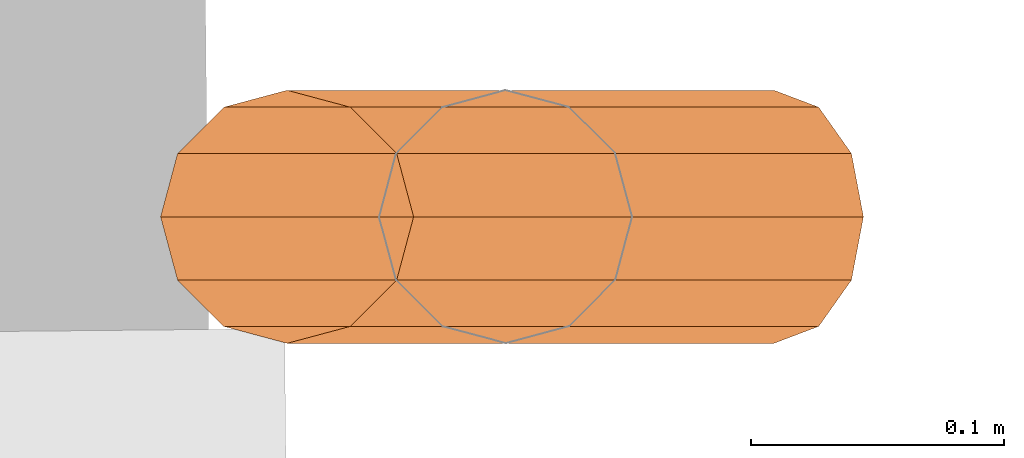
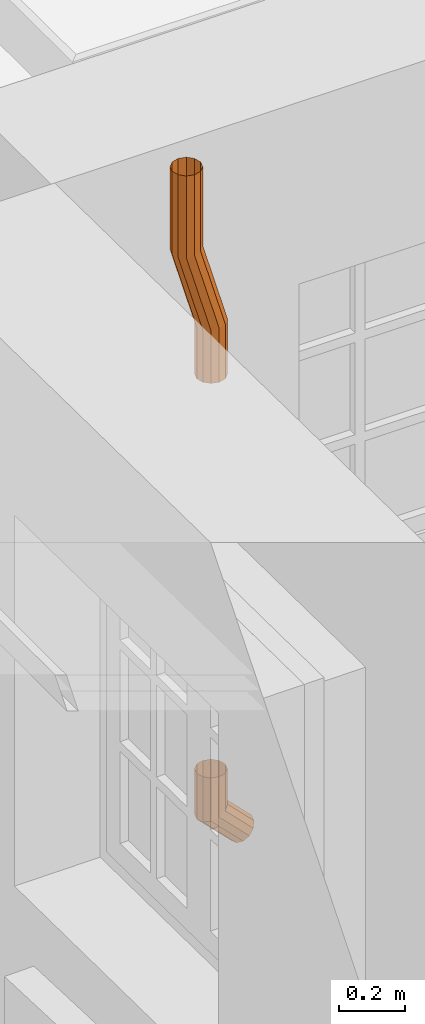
# One storey, part 192 of 196: 2 proxies.
"""IFC2X3 building model written with IfcOpenShell, lengths in metres."""

import ifcopenshell
import ifcopenshell.guid

model = None  # the IFC model being written
_history = None  # IfcOwnerHistory: only IFC2X3 demands one
_inside = {}  # id of a spatial element -> (the spatial element, [elements in it])
_under = {}  # id of a project, library or spatial element -> (it, [spatial elements below it])
_declared = {}  # id of a project -> (the project, [libraries it declares])
_typed = {}  # id of a type object -> (the type object, [elements of that type])
_made_of = {}  # id of a material, layer set ... -> (it, [elements and type objects made of it])


def new_model(schema):
    """Start an empty IFC model of exactly this schema.

    Asked for "IFC4X3", IfcOpenShell would pick the latest addendum, in which some entities
    have other attributes; the version numbers below select the first issue.
    IFC2X3 requires an IfcOwnerHistory on every rooted entity: one is made here for all.
    """
    global model, _history
    if schema == "IFC4X3":
        model = ifcopenshell.file(schema_version=(4, 3, 0, 0))
    else:
        model = ifcopenshell.file(schema=schema)
    _inside.clear()
    _under.clear()
    _declared.clear()
    _typed.clear()
    _made_of.clear()
    _history = None
    if model.schema == "IFC2X3":
        org = make("IfcOrganization", Name="unknown")
        user = make(
            "IfcPersonAndOrganization",
            ThePerson=make("IfcPerson", FamilyName="unknown"),
            TheOrganization=org,
        )
        app = make(
            "IfcApplication",
            ApplicationDeveloper=org,
            Version="unknown",
            ApplicationFullName="unknown",
            ApplicationIdentifier="unknown",
        )
        _history = make(
            "IfcOwnerHistory",
            OwningUser=user,
            OwningApplication=app,
            ChangeAction="ADDED",
            CreationDate=0,
        )
    return model


def make(cls, **values):
    """One entity of the class cls with the attributes given. An attribute that is None is left unset."""
    return model.create_entity(
        cls, **{name: value for name, value in values.items() if value is not None}
    )


def entity(cls, *values):
    """Any entity or typed value of the class cls, its attributes in the order of the schema. None: left unset."""
    e = model.create_entity(cls)
    for i, value in enumerate(values):
        if value is not None:
            e[i] = value
    return e


def rooted(cls, **values):
    """An entity with a GlobalId (a new one), such as an element, a storey or a relation."""
    return make(cls, GlobalId=ifcopenshell.guid.new(), OwnerHistory=_history, **values)


def si_unit(unit_type, name, prefix=None):
    """IfcSIUnit, for example si_unit("LENGTHUNIT", "METRE", prefix="MILLI")."""
    return make("IfcSIUnit", UnitType=unit_type, Prefix=prefix, Name=name)


def converted_unit(unit_type, name, factor, base, dimensions=None, offset=None):
    """IfcConversionBasedUnit, such as the inch: factor (a typed value) times the base unit."""
    return make(
        "IfcConversionBasedUnit"
        if offset is None
        else "IfcConversionBasedUnitWithOffset",
        ConversionOffset=offset,
        Dimensions=None
        if dimensions is None
        else entity("IfcDimensionalExponents", *dimensions),
        UnitType=unit_type,
        Name=name,
        ConversionFactor=make(
            "IfcMeasureWithUnit", ValueComponent=factor, UnitComponent=base
        ),
    )


def derived_unit(unit_type, elements):
    """IfcDerivedUnit: a product of units, each with its exponent."""
    return make(
        "IfcDerivedUnit",
        Elements=[
            make("IfcDerivedUnitElement", Unit=unit, Exponent=power)
            for unit, power in elements
        ],
        UnitType=unit_type,
    )


def money_unit(currency):
    """IfcMonetaryUnit."""
    return make("IfcMonetaryUnit", Currency=currency)


def assignment(units):
    """IfcUnitAssignment: the units of a project."""
    return None if units is None else make("IfcUnitAssignment", Units=units)


def point(xyz):
    """IfcCartesianPoint."""
    return None if xyz is None else make("IfcCartesianPoint", Coordinates=xyz)


def direction(xyz):
    """IfcDirection."""
    return None if xyz is None else make("IfcDirection", DirectionRatios=xyz)


def frame(location, z_axis=None, x_axis=None):
    """IfcAxis2Placement3D, a coordinate frame: its origin and axes. An axis left out is left unset."""
    return make(
        "IfcAxis2Placement3D",
        Location=point(location),
        Axis=direction(z_axis),
        RefDirection=direction(x_axis),
    )


def origin_with_axes():
    """The frame at (0, 0, 0) with the z axis (0, 0, 1) and the x axis (1, 0, 0) written out."""
    return frame((0.0, 0.0, 0.0), z_axis=(0.0, 0.0, 1.0), x_axis=(1.0, 0.0, 0.0))


def place(relative_to, where):
    """IfcLocalPlacement: puts the frame where relative to a parent placement (None: the world)."""
    return make(
        "IfcLocalPlacement", PlacementRelTo=relative_to, RelativePlacement=where
    )


def context(
    kind, dimensions, precision=None, world=None, true_north=None, identifier=None
):
    """IfcGeometricRepresentationContext, for example the 3D "Model" context."""
    return make(
        "IfcGeometricRepresentationContext",
        ContextIdentifier=identifier,
        ContextType=kind,
        CoordinateSpaceDimension=dimensions,
        Precision=precision,
        WorldCoordinateSystem=world,
        TrueNorth=true_north,
    )


def subcontext(parent, identifier, kind, view, scale=None):
    """IfcGeometricRepresentationSubContext, for example "Body" below "Model"."""
    return make(
        "IfcGeometricRepresentationSubContext",
        ContextIdentifier=identifier,
        ContextType=kind,
        ParentContext=parent,
        TargetScale=scale,
        TargetView=view,
    )


def project(units=None, contexts=None):
    """IfcProject with its units and contexts."""
    return rooted(
        "IfcProject",
        Name="project",
        RepresentationContexts=contexts,
        UnitsInContext=assignment(units),
    )


def spatial(cls, under=None, at=None, **own):
    """A site, building, storey or space (cls), placed at a placement, below another one or the project."""
    s = rooted(cls, ObjectPlacement=at, **own)
    if under is not None:
        _under.setdefault(under.id(), (under, []))[1].append(s)
    return s


def faces_of(points, faces, orient=None, outer=None):
    """IfcFace entities. A face is a list of loops; a loop is a list of indices into points, from 0.

    orient and outer hold one flag for each loop. By default every Orientation is true, the
    first loop of a face is its IfcFaceOuterBound and the others are IfcFaceBound.
    """
    made = []
    for i, loops in enumerate(faces):
        bounds = []
        for j, loop in enumerate(loops):
            is_outer = j == 0 if outer is None else outer[i][j]
            bounds.append(
                make(
                    "IfcFaceOuterBound" if is_outer else "IfcFaceBound",
                    Bound=make("IfcPolyLoop", Polygon=[points[k] for k in loop]),
                    Orientation=True if orient is None else orient[i][j],
                )
            )
        made.append(make("IfcFace", Bounds=bounds))
    return made


def open_shell(faces, orient=None, outer=None):
    """The faces of one IfcOpenShell. surface_model builds it on its shared points."""
    return ("IfcOpenShell", faces, orient, outer)


def surface_model(cls, points, shells):
    """IfcFaceBasedSurfaceModel or IfcShellBasedSurfaceModel (cls): surfaces that need not close."""
    shared = [point(p) for p in points]
    made = [make(c, CfsFaces=faces_of(shared, fs, o, b)) for c, fs, o, b in shells]
    if cls == "IfcFaceBasedSurfaceModel":
        return make(cls, FbsmFaces=made)
    return make(cls, SbsmBoundary=made)


def shape(context_of_items, identifier, shape_type, items):
    """IfcShapeRepresentation: the items that make up one representation, for example the "Body"."""
    return make(
        "IfcShapeRepresentation",
        ContextOfItems=context_of_items,
        RepresentationIdentifier=identifier,
        RepresentationType=shape_type,
        Items=items,
    )


def made_of(thing, what):
    """Note that an element or type object is made of a material, layer set ...; save() writes the relation."""
    if what is not None:
        _made_of.setdefault(what.id(), (what, []))[1].append(thing)
    return thing


def type_object(cls, material=None, **own):
    """A type object (cls), such as IfcWallType, which elements share."""
    return made_of(rooted(cls, **own), material)


def element(
    cls,
    number,
    at=None,
    inside=None,
    cuts=None,
    type_object=None,
    material=None,
    context=None,
    identifier="Body",
    shape_type=None,
    held_by="IfcProductDefinitionShape",
    body=None,
    shapes=None,
    **own,
):
    """One element of the class cls, such as IfcWall. Its Tag is "e" and its number.

    at: its placement. inside: the storey or other place that contains it. cuts: it is an
    opening in that element (IfcRelVoidsElement). A single representation is given by context,
    identifier, shape_type and body (its items); several are given by shapes. held_by: the class
    of the entity that holds the representations. save() writes the other relations.
    """
    e = rooted(cls, Tag="e%d" % number, ObjectPlacement=at, **own)
    if body is not None:
        shapes = [shape(context, identifier, shape_type, body)]
    if shapes is not None:
        e.Representation = make(held_by, Representations=shapes)
    if inside is not None:
        _inside.setdefault(inside.id(), (inside, []))[1].append(e)
    if cuts is not None:
        rooted(
            "IfcRelVoidsElement", RelatingBuildingElement=cuts, RelatedOpeningElement=e
        )
    if type_object is not None:
        _typed.setdefault(type_object.id(), (type_object, []))[1].append(e)
    return made_of(e, material)


def aggregate(whole, parts):
    """IfcRelAggregates: a whole, such as a stair, and the parts it consists of."""
    return rooted("IfcRelAggregates", RelatingObject=whole, RelatedObjects=parts)


def save(model, path):
    """Write the relations noted so far, then the file.

    IfcRelAggregates (storeys below a building ...), IfcRelContainedInSpatialStructure (elements
    in a storey), IfcRelDefinesByType, IfcRelAssociatesMaterial and IfcRelDeclares: one each for
    every whole, place, type object, material and project.
    """
    for whole, parts in _under.values():
        aggregate(whole, parts)
    for where, things in _inside.values():
        rooted(
            "IfcRelContainedInSpatialStructure",
            RelatedElements=things,
            RelatingStructure=where,
        )
    for kind, things in _typed.values():
        rooted("IfcRelDefinesByType", RelatedObjects=things, RelatingType=kind)
    for what, things in _made_of.values():
        rooted("IfcRelAssociatesMaterial", RelatedObjects=things, RelatingMaterial=what)
    for by, libraries in _declared.values():
        rooted("IfcRelDeclares", RelatingContext=by, RelatedDefinitions=libraries)
    model.write(path)


model = new_model("IFC2X3")

# Units and contexts
model_context = context("Model", 3, precision=1e-05, world=origin_with_axes(), true_north=direction((0.0, 1.0)))
body_context = subcontext(model_context, "Body", "Model", "MODEL_VIEW")
ifc_project = project(units=[si_unit("LENGTHUNIT", "METRE"), si_unit("AREAUNIT", "SQUARE_METRE"), si_unit("VOLUMEUNIT", "CUBIC_METRE"), converted_unit("PLANEANGLEUNIT", "DEGREE", entity("IfcPlaneAngleMeasure", 0.0174532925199), si_unit("PLANEANGLEUNIT", "RADIAN"), dimensions=[0, 0, 0, 0, 0, 0, 0]), money_unit("EUR"), converted_unit("TIMEUNIT", "Year", entity("IfcTimeMeasure", 31556926.0), si_unit("TIMEUNIT", "SECOND"), dimensions=[0, 0, 1, 0, 0, 0, 0]), si_unit("MASSUNIT", "GRAM", prefix="KILO"), si_unit("THERMODYNAMICTEMPERATUREUNIT", "DEGREE_CELSIUS"), si_unit("LUMINOUSINTENSITYUNIT", "LUMEN"), si_unit("ENERGYUNIT", "JOULE", prefix="MEGA"), derived_unit("THERMALCONDUCTANCEUNIT", [(si_unit("POWERUNIT", "WATT"), 1), (si_unit("LENGTHUNIT", "METRE"), -1), (si_unit("THERMODYNAMICTEMPERATUREUNIT", "KELVIN"), -1)]), derived_unit("SPECIFICHEATCAPACITYUNIT", [(si_unit("ENERGYUNIT", "JOULE"), 1), (si_unit("MASSUNIT", "GRAM", prefix="KILO"), -1), (si_unit("THERMODYNAMICTEMPERATUREUNIT", "KELVIN"), -1)]), derived_unit("MASSDENSITYUNIT", [(si_unit("MASSUNIT", "GRAM", prefix="KILO"), 1), (si_unit("VOLUMEUNIT", "CUBIC_METRE"), -1)])], contexts=[model_context])

# Site, building, storey
site_placement = place(None, origin_with_axes())
site = spatial("IfcSite", under=ifc_project, at=site_placement, Name="Gelände", CompositionType="ELEMENT")
building_placement = place(site_placement, origin_with_axes())
building = spatial("IfcBuilding", under=site, at=building_placement, Name="Gebäude", CompositionType="ELEMENT")
storey_placement = place(building_placement, frame((0.0, 0.0, -3.0), z_axis=(0.0, 0.0, 1.0), x_axis=(1.0, 0.0, 0.0)))
storey = spatial("IfcBuildingStorey", under=building, at=storey_placement, Name="KELLERGESCHOSS", CompositionType="ELEMENT", Elevation=-3.0)

# Proxies
building_element_proxy_type_1 = type_object("IfcBuildingElementProxyType", Name="Fallrohr Vorsprung 25", PredefinedType="NOTDEFINED")
proxy_1_placement = place(storey_placement, frame((-17.6109019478, 9.20539933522, 2.4824585), z_axis=(0.0, 0.0, 1.0), x_axis=(0.0, -1.0, 0.0)))
element("IfcBuildingElementProxy", 1, at=proxy_1_placement, inside=storey, type_object=building_element_proxy_type_1, Name="Objekt-00224", context=body_context, shape_type="SurfaceModel", body=[
    surface_model("IfcShellBasedSurfaceModel", [(-0.05, -0.0863887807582, 0.8), (-0.0433012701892, -0.0613887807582, 0.8), (-0.0433012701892, -0.0613887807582, 0.503527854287), (-0.05, -0.0863887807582, 0.5), (-0.025, -0.0430875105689, 0.8), (-0.025, -0.0430875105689, 0.506110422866), (-0.0433012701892, 0.025, 0.203527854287), (-0.05, 0.0, 0.2), (-0.0433012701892, -0.111388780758, 0.8), (-0.0433012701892, -0.111388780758, 0.496472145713), (0.0, -0.0363887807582, 0.8), (0.0, -0.0363887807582, 0.507055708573), (-0.025, 0.0433012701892, 0.206110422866), (-0.0433012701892, 0.025, 0.0), (-0.05, 0.0, 0.0), (-0.0433012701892, -0.025, 0.196472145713), (-0.025, -0.129690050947, 0.8), (-0.025, -0.129690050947, 0.493889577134), (0.025, -0.0430875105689, 0.8), (0.025, -0.0430875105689, 0.506110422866), (0.0, 0.05, 0.207055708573), (-0.025, 0.0433012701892, 0.0), (-0.0433012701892, -0.025, 0.0), (-0.025, -0.0433012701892, 0.193889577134), (0.0, -0.136388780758, 0.8), (0.0, -0.136388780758, 0.492944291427), (0.0433012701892, -0.0613887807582, 0.8), (0.0433012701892, -0.0613887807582, 0.503527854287), (0.025, 0.0433012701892, 0.206110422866), (0.0, 0.05, 0.0), (-0.025, -0.0433012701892, 0.0), (0.0, -0.05, 0.192944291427), (0.025, -0.129690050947, 0.8), (0.025, -0.129690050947, 0.493889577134), (0.05, -0.0863887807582, 0.8), (0.05, -0.0863887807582, 0.5), (0.0433012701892, 0.025, 0.203527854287), (0.025, 0.0433012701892, 0.0), (0.0, -0.05, 0.0), (0.025, -0.0433012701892, 0.193889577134), (0.0433012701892, -0.111388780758, 0.8), (0.0433012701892, -0.111388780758, 0.496472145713), (0.05, 0.0, 0.2), (0.0433012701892, 0.025, 0.0), (0.025, -0.0433012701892, 0.0), (0.0433012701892, -0.025, 0.196472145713), (0.05, 0.0, 0.0), (0.0433012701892, -0.025, 0.0)], [open_shell([[[0, 1, 2, 3]], [[1, 4, 5, 2]], [[3, 2, 6, 7]], [[8, 0, 3, 9]], [[4, 10, 11, 5]], [[2, 5, 12, 6]], [[7, 6, 13, 14]], [[9, 3, 7, 15]], [[16, 8, 9, 17]], [[10, 18, 19, 11]], [[5, 11, 20, 12]], [[6, 12, 21, 13]], [[15, 7, 14, 22]], [[17, 9, 15, 23]], [[24, 16, 17, 25]], [[18, 26, 27, 19]], [[11, 19, 28, 20]], [[12, 20, 29, 21]], [[23, 15, 22, 30]], [[25, 17, 23, 31]], [[32, 24, 25, 33]], [[26, 34, 35, 27]], [[19, 27, 36, 28]], [[20, 28, 37, 29]], [[31, 23, 30, 38]], [[33, 25, 31, 39]], [[40, 32, 33, 41]], [[34, 40, 41, 35]], [[27, 35, 42, 36]], [[28, 36, 43, 37]], [[39, 31, 38, 44]], [[41, 33, 39, 45]], [[35, 41, 45, 42]], [[36, 42, 46, 43]], [[45, 39, 44, 47]], [[42, 45, 47, 46]]])]),
])
building_element_proxy_type_2 = type_object("IfcBuildingElementProxyType", Name="Fallrohr Ellbogen 25", PredefinedType="NOTDEFINED")
proxy_2_placement = place(storey_placement, frame((-17.6109019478, 9.20539933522, 0.72819816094), z_axis=(0.0, 0.0, 1.0), x_axis=(0.0, 1.0, 0.0)))
element("IfcBuildingElementProxy", 2, at=proxy_2_placement, inside=storey, type_object=building_element_proxy_type_2, Name="Objekt-00225", context=body_context, shape_type="SurfaceModel", body=[
    surface_model("IfcShellBasedSurfaceModel", [(-0.05, 0.0, 0.29135533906), (-0.0433012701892, 0.025, 0.29135533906), (-0.0433012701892, 0.025, 0.131), (-0.05, 0.0, 0.14135533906), (-0.025, 0.0433012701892, 0.29135533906), (-0.025, 0.0433012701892, 0.123419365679), (-0.0433012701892, -0.0883223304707, 0.0176776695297), (-0.05, -0.106, 0.0353553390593), (-0.0433012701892, -0.025, 0.29135533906), (-0.0433012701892, -0.025, 0.151710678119), (0.0, 0.05, 0.29135533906), (0.0, 0.05, 0.120644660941), (-0.025, -0.0753813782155, 0.00473671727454), (-0.0433012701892, -0.12367766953, 0.053033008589), (-0.025, -0.0433012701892, 0.29135533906), (-0.025, -0.0433012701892, 0.15929131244), (0.025, 0.0433012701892, 0.29135533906), (0.025, 0.0433012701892, 0.123419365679), (0.0, -0.070644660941, 0.0), (-0.025, -0.136618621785, 0.0659739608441), (0.0, -0.05, 0.29135533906), (0.0, -0.05, 0.162066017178), (0.0433012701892, 0.025, 0.29135533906), (0.0433012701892, 0.025, 0.131), (0.025, -0.0753813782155, 0.00473671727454), (0.0, -0.14135533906, 0.0707106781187), (0.025, -0.0433012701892, 0.29135533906), (0.025, -0.0433012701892, 0.15929131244), (0.05, 0.0, 0.29135533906), (0.05, 0.0, 0.14135533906), (0.0433012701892, -0.0883223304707, 0.0176776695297), (0.025, -0.136618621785, 0.0659739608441), (0.0433012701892, -0.025, 0.29135533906), (0.0433012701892, -0.025, 0.151710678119), (0.05, -0.106, 0.0353553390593), (0.0433012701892, -0.12367766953, 0.053033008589)], [open_shell([[[0, 1, 2, 3]], [[1, 4, 5, 2]], [[3, 2, 6, 7]], [[8, 0, 3, 9]], [[4, 10, 11, 5]], [[2, 5, 12, 6]], [[9, 3, 7, 13]], [[14, 8, 9, 15]], [[10, 16, 17, 11]], [[5, 11, 18, 12]], [[15, 9, 13, 19]], [[20, 14, 15, 21]], [[16, 22, 23, 17]], [[11, 17, 24, 18]], [[21, 15, 19, 25]], [[26, 20, 21, 27]], [[22, 28, 29, 23]], [[17, 23, 30, 24]], [[27, 21, 25, 31]], [[32, 26, 27, 33]], [[28, 32, 33, 29]], [[23, 29, 34, 30]], [[33, 27, 31, 35]], [[29, 33, 35, 34]]])]),
])

save(model, "model.ifc")
